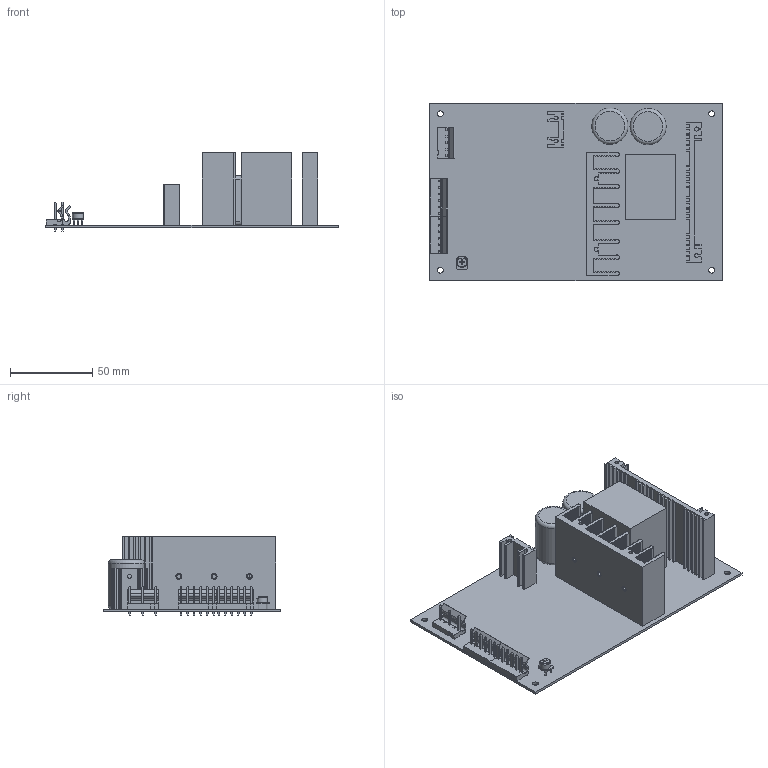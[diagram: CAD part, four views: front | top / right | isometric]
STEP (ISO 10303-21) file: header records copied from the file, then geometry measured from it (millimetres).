
FILE_DESCRIPTION((''),'2;1');
FILE_NAME('W:\mechanical\機構工程圖\3D圖檔\3D Outline-2020\已完成待審核\PD-110.stp','2020-07-08T15:35:14',('shirley'),(''),'Autodesk Inventor 2010','Autodesk Inventor 2010','');
FILE_SCHEMA(('AUTOMOTIVE_DESIGN { 1 0 10303 214 1 1 1 1 }'));
Length unit declared in the file: millimetre
Products named in the file (11): PD-110; PCB; HS1; HS2; HS3; T1; C5; VR-1; 5273-05N2,4; 5273-06; 5273-07_CPY1
Assembly tree (11 placements, depth 2):
  PD-110
    PCB
    HS1
    HS2
    HS3
    T1
    C5  x2
    VR-1
    5273-05N2,4
    5273-06
    5273-07_CPY1
Bounding box: 177.8 x 107.95 x 47.6 mm (x, y, z)
Volume: 156317.2 mm3; surface area: 96070.9 mm2
Topology: 11 solids, 11 shells, 991 faces, 2933 edges, 2231 vertices
Faces by surface type: plane 906, cylinder 75, torus 10
Full cylindrical faces by diameter (mm): 0.8 x3, 2.5 x5, 3.5 x4, 6.747 x1, 22 x2
Entity records: 33241 total; most frequent: CARTESIAN_POINT 6149, ORIENTED_EDGE 5296, DIRECTION 5094, VECTOR 2702, LINE 2702, EDGE_CURVE 2648, VERTEX_POINT 1736, AXIS2_PLACEMENT_3D 1196
